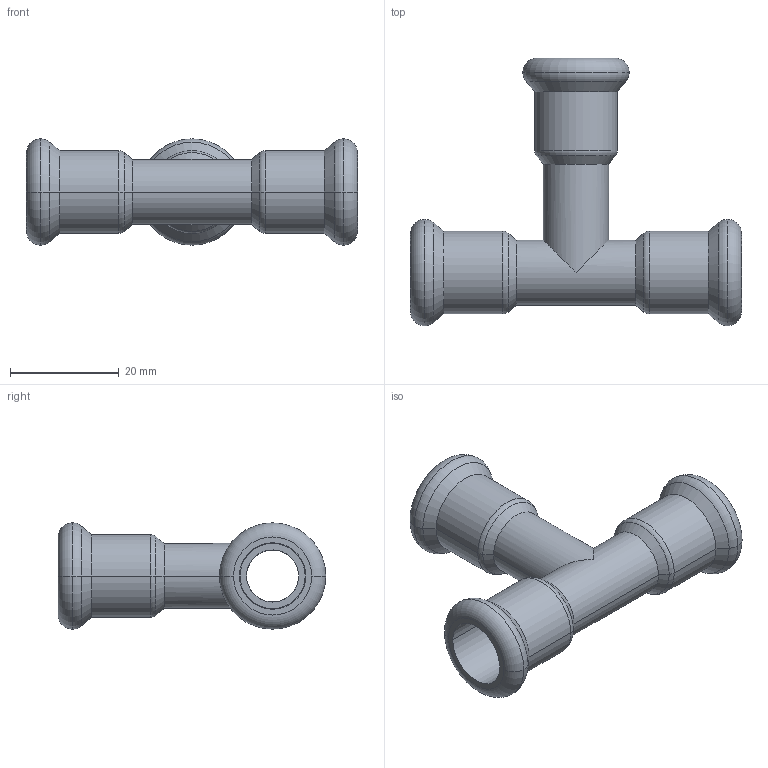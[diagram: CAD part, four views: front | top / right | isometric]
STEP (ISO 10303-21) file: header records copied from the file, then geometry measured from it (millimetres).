
FILE_DESCRIPTION(('CoCreate Modeling STEP Export'),'2;1');
FILE_NAME('C1414 12x12x12.stp','2014-11-11T16:53:52',(''),(''),'CoCreate Modeling STEP processor for AP214 (Solid Model)','CoCreate Modeling 17.00A 17-Jun-2010 (C) Parametric Technology GmbH','');
FILE_SCHEMA(('AUTOMOTIVE_DESIGN { 1 0 10303 214 1 1 1 1 }'));
Length unit declared in the file: millimetre
Products named in the file (2): C1414_12x12x12
Assembly tree (1 placements, depth 2):
  C1414_12x12x12
    C1414_12x12x12
Bounding box: 61 x 49.3 x 19.6 mm (x, y, z)
Volume: 6778.5 mm3; surface area: 8308.4 mm2
Topology: 1 solids, 1 shells, 65 faces, 141 edges, 83 vertices
Faces by surface type: cylinder 26, torus 18, cone 12, plane 9
Entity records: 1467 total; most frequent: ORIENTED_EDGE 282, DIRECTION 226, CARTESIAN_POINT 215, EDGE_CURVE 141, AXIS2_PLACEMENT_3D 94, VERTEX_POINT 83, EDGE_LOOP 74, FACE_OUTER_BOUND 65
